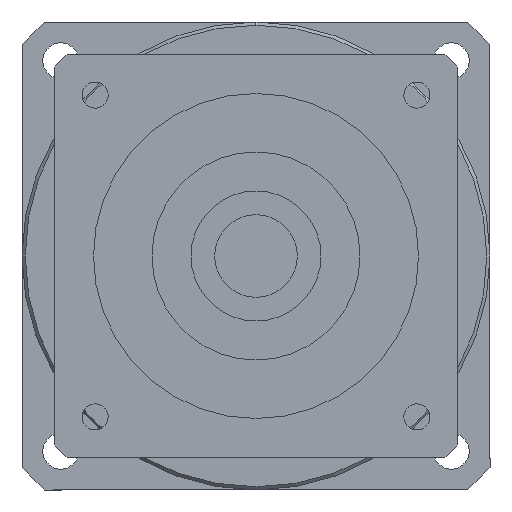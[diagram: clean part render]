
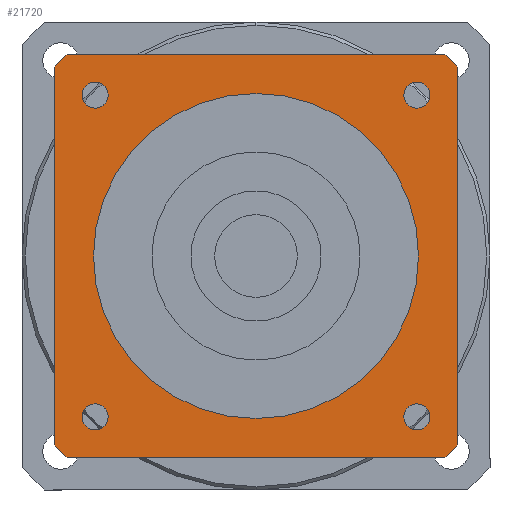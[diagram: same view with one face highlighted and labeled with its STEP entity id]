
A CAD part, left-side view. The second image highlights one B-rep face of the part: STEP entity #21720.
In plain terms, the highlighted planar face has unit normal (-1, 0, 0) as drawn and (0, 0, -1) by its records, which use the part's own axes.
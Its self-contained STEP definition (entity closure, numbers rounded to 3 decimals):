
#15830=CARTESIAN_POINT('',(29.073,31.,-92.));
#15840=VERTEX_POINT('',#15830);
#15870=CARTESIAN_POINT('',(0.,0.,
-92.));
#15880=DIRECTION('',(0.,0.,1.));
#15890=DIRECTION('',(0.,-1.,0.));
#15900=AXIS2_PLACEMENT_3D('',#15870,#15880,#15890);
#15910=CIRCLE('',#15900,42.5);
#15920=CARTESIAN_POINT('',(31.,29.073,-92.));
#15930=VERTEX_POINT('',#15920);
#15940=EDGE_CURVE('',#15930,#15840,#15910,.T.);
#18330=CARTESIAN_POINT('',(-29.073,31.,-92.));
#18340=VERTEX_POINT('',#18330);
#18420=CARTESIAN_POINT('',(-31.,29.073,-92.));
#18430=VERTEX_POINT('',#18420);
#18460=CARTESIAN_POINT('',(0.,0.,
-92.));
#18470=DIRECTION('',(0.,0.,1.));
#18480=DIRECTION('',(0.,-1.,0.));
#18490=AXIS2_PLACEMENT_3D('',#18460,#18470,#18480);
#18500=CIRCLE('',#18490,42.5);
#18510=EDGE_CURVE('',#18340,#18430,#18500,.T.);
#19020=CARTESIAN_POINT('',(-31.,-29.073,-92.));
#19030=VERTEX_POINT('',#19020);
#19110=CARTESIAN_POINT('',(-29.073,-31.,-92.));
#19120=VERTEX_POINT('',#19110);
#19150=CARTESIAN_POINT('',(0.,0.,
-92.));
#19160=DIRECTION('',(0.,0.,1.));
#19170=DIRECTION('',(0.,-1.,0.));
#19180=AXIS2_PLACEMENT_3D('',#19150,#19160,#19170);
#19190=CIRCLE('',#19180,42.5);
#19200=EDGE_CURVE('',#19030,#19120,#19190,.T.);
#19670=CARTESIAN_POINT('',(29.073,-31.,-92.));
#19680=VERTEX_POINT('',#19670);
#19760=CARTESIAN_POINT('',(31.,-29.073,-92.));
#19770=VERTEX_POINT('',#19760);
#19800=CARTESIAN_POINT('',(0.,0.,
-92.));
#19810=DIRECTION('',(0.,0.,1.));
#19820=DIRECTION('',(0.,-1.,0.));
#19830=AXIS2_PLACEMENT_3D('',#19800,#19810,#19820);
#19840=CIRCLE('',#19830,42.5);
#19850=EDGE_CURVE('',#19680,#19770,#19840,.T.);
#20000=CARTESIAN_POINT('',(31.,-31.,-92.));
#20010=DIRECTION('',(0.,1.,0.));
#20020=VECTOR('',#20010,1000.);
#20030=LINE('',#20000,#20020);
#20040=EDGE_CURVE('',#19770,#15930,#20030,.T.);
#20190=CARTESIAN_POINT('',(31.,31.,-92.));
#20200=DIRECTION('',(-1.,0.,0.));
#20210=VECTOR('',#20200,1000.);
#20220=LINE('',#20190,#20210);
#20230=EDGE_CURVE('',#15840,#18340,#20220,.T.);
#20370=CARTESIAN_POINT('',(-24.749,22.749,-92.));
#20380=VERTEX_POINT('',#20370);
#20470=CARTESIAN_POINT('',(-24.749,26.749,-92.));
#20480=VERTEX_POINT('',#20470);
#20510=CARTESIAN_POINT('',(-24.749,24.749,-92.));
#20520=DIRECTION('',(0.,0.,-1.));
#20530=DIRECTION('',(-1.,0.,0.));
#20540=AXIS2_PLACEMENT_3D('',#20510,#20520,#20530);
#20550=CIRCLE('',#20540,2.);
#20560=CARTESIAN_POINT('',(-26.749,24.749,-92.));
#20570=VERTEX_POINT('',#20560);
#20580=EDGE_CURVE('',#20570,#20480,#20550,.T.);
#20600=EDGE_CURVE('',#20380,#20570,#20550,.T.);
#20650=CARTESIAN_POINT('',(-31.,31.,-92.));
#20660=DIRECTION('',(0.,0.,1.));
#20670=DIRECTION('',(-1.,0.,0.));
#20680=AXIS2_PLACEMENT_3D('',#20650,#20660,#20670);
#20690=PLANE('',#20680);
#20700=CARTESIAN_POINT('',(24.749,-24.749,-92.));
#20710=DIRECTION('',(0.,0.,-1.));
#20720=DIRECTION('',(1.,0.,0.));
#20730=AXIS2_PLACEMENT_3D('',#20700,#20710,#20720);
#20740=CIRCLE('',#20730,2.);
#20750=CARTESIAN_POINT('',(26.749,-24.749,-92.));
#20760=VERTEX_POINT('',#20750);
#20770=CARTESIAN_POINT('',(24.749,-26.749,-92.));
#20780=VERTEX_POINT('',#20770);
#20790=EDGE_CURVE('',#20760,#20780,#20740,.T.);
#20800=ORIENTED_EDGE('',*,*,#20790,.F.);
#20810=CARTESIAN_POINT('',(24.749,-22.749,-92.));
#20820=VERTEX_POINT('',#20810);
#20830=EDGE_CURVE('',#20780,#20820,#20740,.T.);
#20840=ORIENTED_EDGE('',*,*,#20830,.F.);
#20850=EDGE_CURVE('',#20820,#20760,#20740,.T.);
#20860=ORIENTED_EDGE('',*,*,#20850,.F.);
#20870=EDGE_LOOP('',(#20860,#20840,#20800));
#20880=FACE_BOUND('',#20870,.T.);
#20890=CARTESIAN_POINT('',(24.749,24.749,-92.));
#20900=DIRECTION('',(0.,0.,-1.));
#20910=DIRECTION('',(0.,1.,0.));
#20920=AXIS2_PLACEMENT_3D('',#20890,#20900,#20910);
#20930=CIRCLE('',#20920,2.);
#20940=CARTESIAN_POINT('',(24.749,26.749,-92.));
#20950=VERTEX_POINT('',#20940);
#20960=CARTESIAN_POINT('',(26.749,24.749,-92.));
#20970=VERTEX_POINT('',#20960);
#20980=EDGE_CURVE('',#20950,#20970,#20930,.T.);
#20990=ORIENTED_EDGE('',*,*,#20980,.F.);
#21000=CARTESIAN_POINT('',(22.749,24.749,-92.));
#21010=VERTEX_POINT('',#21000);
#21020=EDGE_CURVE('',#20970,#21010,#20930,.T.);
#21030=ORIENTED_EDGE('',*,*,#21020,.F.);
#21040=EDGE_CURVE('',#21010,#20950,#20930,.T.);
#21050=ORIENTED_EDGE('',*,*,#21040,.F.);
#21060=EDGE_LOOP('',(#21050,#21030,#20990));
#21070=FACE_BOUND('',#21060,.T.);
#21080=ORIENTED_EDGE('',*,*,#20580,.F.);
#21090=EDGE_CURVE('',#20480,#20380,#20550,.T.);
#21100=ORIENTED_EDGE('',*,*,#21090,.F.);
#21110=ORIENTED_EDGE('',*,*,#20600,.F.);
#21120=EDGE_LOOP('',(#21110,#21100,#21080));
#21130=FACE_BOUND('',#21120,.T.);
#21140=CARTESIAN_POINT('',(-24.749,-24.749,-92.));
#21150=DIRECTION('',(0.,0.,-1.));
#21160=DIRECTION('',(0.,-1.,0.));
#21170=AXIS2_PLACEMENT_3D('',#21140,#21150,#21160);
#21180=CIRCLE('',#21170,2.);
#21190=CARTESIAN_POINT('',(-24.749,-26.749,-92.));
#21200=VERTEX_POINT('',#21190);
#21210=CARTESIAN_POINT('',(-26.749,-24.749,-92.));
#21220=VERTEX_POINT('',#21210);
#21230=EDGE_CURVE('',#21200,#21220,#21180,.T.);
#21240=ORIENTED_EDGE('',*,*,#21230,.F.);
#21250=CARTESIAN_POINT('',(-22.749,-24.749,-92.));
#21260=VERTEX_POINT('',#21250);
#21270=EDGE_CURVE('',#21220,#21260,#21180,.T.);
#21280=ORIENTED_EDGE('',*,*,#21270,.F.);
#21290=EDGE_CURVE('',#21260,#21200,#21180,.T.);
#21300=ORIENTED_EDGE('',*,*,#21290,.F.);
#21310=EDGE_LOOP('',(#21300,#21280,#21240));
#21320=FACE_BOUND('',#21310,.T.);
#21330=ORIENTED_EDGE('',*,*,#19200,.F.);
#21340=CARTESIAN_POINT('',(-31.,-31.,-92.));
#21350=DIRECTION('',(1.,0.,0.));
#21360=VECTOR('',#21350,1000.);
#21370=LINE('',#21340,#21360);
#21380=EDGE_CURVE('',#19120,#19680,#21370,.T.);
#21390=ORIENTED_EDGE('',*,*,#21380,.F.);
#21400=ORIENTED_EDGE('',*,*,#19850,.F.);
#21410=ORIENTED_EDGE('',*,*,#20040,.F.);
#21420=ORIENTED_EDGE('',*,*,#15940,.F.);
#21430=ORIENTED_EDGE('',*,*,#20230,.F.);
#21440=ORIENTED_EDGE('',*,*,#18510,.F.);
#21450=CARTESIAN_POINT('',(-31.,31.,-92.));
#21460=DIRECTION('',(0.,-1.,0.));
#21470=VECTOR('',#21460,1000.);
#21480=LINE('',#21450,#21470);
#21490=EDGE_CURVE('',#18430,#19030,#21480,.T.);
#21500=ORIENTED_EDGE('',*,*,#21490,.F.);
#21510=EDGE_LOOP('',(#21500,#21440,#21430,#21420,#21410,#21400,#21390,
#21330));
#21520=FACE_OUTER_BOUND('',#21510,.T.);
#21530=CARTESIAN_POINT('',(0.,0.,
-92.));
#21540=DIRECTION('',(0.,0.,1.));
#21550=DIRECTION('',(0.,-1.,0.));
#21560=AXIS2_PLACEMENT_3D('',#21530,#21540,#21550);
#21570=CIRCLE('',#21560,25.);
#21580=CARTESIAN_POINT('',(25.,0.,-92.));
#21590=VERTEX_POINT('',#21580);
#21600=CARTESIAN_POINT('',(-25.,0.,-92.));
#21610=VERTEX_POINT('',#21600);
#21620=EDGE_CURVE('',#21590,#21610,#21570,.T.);
#21630=ORIENTED_EDGE('',*,*,#21620,.T.);
#21640=CARTESIAN_POINT('',(0.,-25.,-92.));
#21650=VERTEX_POINT('',#21640);
#21660=EDGE_CURVE('',#21650,#21590,#21570,.T.);
#21670=ORIENTED_EDGE('',*,*,#21660,.T.);
#21680=EDGE_CURVE('',#21610,#21650,#21570,.T.);
#21690=ORIENTED_EDGE('',*,*,#21680,.T.);
#21700=EDGE_LOOP('',(#21690,#21670,#21630));
#21710=FACE_BOUND('',#21700,.T.);
#21720=ADVANCED_FACE('',(#20880,#21070,#21130,#21320,#21520,#21710),
#20690,.F.);
